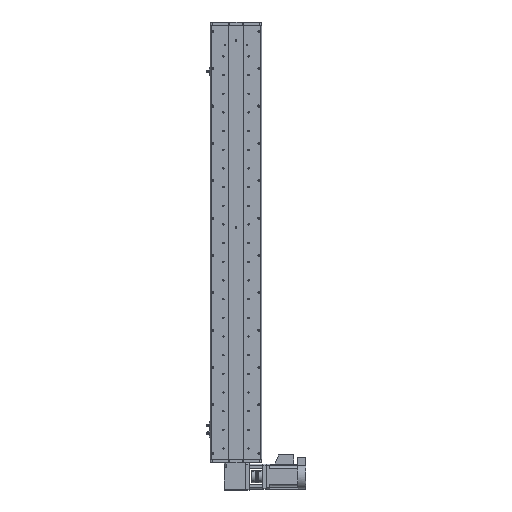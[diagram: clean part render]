
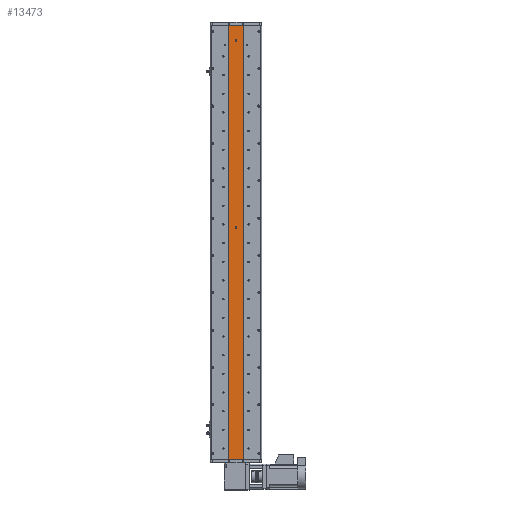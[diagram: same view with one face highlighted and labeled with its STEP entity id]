
A CAD part, front view. The second image highlights one B-rep face of the part: STEP entity #13473.
In plain terms, the highlighted planar face has unit normal (0, -1, 0).
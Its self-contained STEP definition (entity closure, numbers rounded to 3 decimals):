
#1919 = ORIENTED_EDGE ( 'NONE', *, *, #10869, .F. ) ;
#2234 = ORIENTED_EDGE ( 'NONE', *, *, #42616, .F. ) ;
#3768 = ORIENTED_EDGE ( 'NONE', *, *, #49944, .T. ) ;
#5292 = DIRECTION ( 'NONE',  ( 0., -1., 0. ) ) ;
#5307 = ORIENTED_EDGE ( 'NONE', *, *, #33931, .F. ) ;
#5576 = DIRECTION ( 'NONE',  ( 0., 1., 0. ) ) ;
#5873 = VERTEX_POINT ( 'NONE', #39789 ) ;
#6048 = DIRECTION ( 'NONE',  ( 0., -1., 0. ) ) ;
#7113 = CARTESIAN_POINT ( 'NONE',  ( 0., 1., 651.5 ) ) ;
#7134 = LINE ( 'NONE', #10293, #16329 ) ;
#7886 = CARTESIAN_POINT ( 'NONE',  ( -25., 1., 698.5 ) ) ;
#7991 = ORIENTED_EDGE ( 'NONE', *, *, #29442, .F. ) ;
#8174 = VERTEX_POINT ( 'NONE', #7113 ) ;
#10293 = CARTESIAN_POINT ( 'NONE',  ( -25., 1., 698.5 ) ) ;
#10869 = EDGE_CURVE ( 'NONE', #38807, #44735, #23951, .T. ) ;
#12101 = ORIENTED_EDGE ( 'NONE', *, *, #50450, .T. ) ;
#12177 = CIRCLE ( 'NONE', #17855, 3. ) ;
#12446 = CARTESIAN_POINT ( 'NONE',  ( 0., 1., 51.5 ) ) ;
#13453 = CARTESIAN_POINT ( 'NONE',  ( 25., 1., -698.5 ) ) ;
#13473 = ADVANCED_FACE ( 'NONE', ( #49269, #29832, #41411 ), #25061, .F. ) ;
#14795 = EDGE_LOOP ( 'NONE', ( #29551, #2234 ) ) ;
#15099 = DIRECTION ( 'NONE',  ( 0., -1., 0. ) ) ;
#16329 = VECTOR ( 'NONE', #29780, 1000. ) ;
#17599 = CARTESIAN_POINT ( 'NONE',  ( 0., 1., 645.5 ) ) ;
#17855 = AXIS2_PLACEMENT_3D ( 'NONE', #28695, #5292, #32587 ) ;
#18001 = CIRCLE ( 'NONE', #46540, 3. ) ;
#19627 = VERTEX_POINT ( 'NONE', #40122 ) ;
#20069 = ORIENTED_EDGE ( 'NONE', *, *, #20346, .F. ) ;
#20346 = EDGE_CURVE ( 'NONE', #8174, #49562, #12177, .T. ) ;
#21486 = VECTOR ( 'NONE', #29255, 1000. ) ;
#22104 = CARTESIAN_POINT ( 'NONE',  ( 0., 1., 48.5 ) ) ;
#22543 = CARTESIAN_POINT ( 'NONE',  ( -25., 1., -698.5 ) ) ;
#23951 = LINE ( 'NONE', #40030, #43480 ) ;
#24177 = VERTEX_POINT ( 'NONE', #22543 ) ;
#25061 = PLANE ( 'NONE',  #49772 ) ;
#25220 = LINE ( 'NONE', #44930, #21486 ) ;
#25859 = EDGE_LOOP ( 'NONE', ( #12101, #7991, #1919, #3768 ) ) ;
#26082 = DIRECTION ( 'NONE',  ( 0., 0., -1. ) ) ;
#27219 = VECTOR ( 'NONE', #48519, 1000. ) ;
#28695 = CARTESIAN_POINT ( 'NONE',  ( 0., 1., 648.5 ) ) ;
#28974 = CARTESIAN_POINT ( 'NONE',  ( 25., 1., 698.5 ) ) ;
#29150 = AXIS2_PLACEMENT_3D ( 'NONE', #22104, #49334, #26082 ) ;
#29255 = DIRECTION ( 'NONE',  ( 0., 0., -1. ) ) ;
#29442 = EDGE_CURVE ( 'NONE', #44735, #5873, #25220, .T. ) ;
#29457 = CARTESIAN_POINT ( 'NONE',  ( 0., 1., 648.5 ) ) ;
#29551 = ORIENTED_EDGE ( 'NONE', *, *, #29593, .F. ) ;
#29593 = EDGE_CURVE ( 'NONE', #19627, #47078, #36185, .T. ) ;
#29780 = DIRECTION ( 'NONE',  ( 0., 0., -1. ) ) ;
#29832 = FACE_BOUND ( 'NONE', #30100, .T. ) ;
#30100 = EDGE_LOOP ( 'NONE', ( #5307, #20069 ) ) ;
#32162 = DIRECTION ( 'NONE',  ( 1., 0., 0. ) ) ;
#32587 = DIRECTION ( 'NONE',  ( 0., 0., -1. ) ) ;
#32890 = DIRECTION ( 'NONE',  ( 0., 0., 1. ) ) ;
#33370 = DIRECTION ( 'NONE',  ( 0., 0., -1. ) ) ;
#33931 = EDGE_CURVE ( 'NONE', #49562, #8174, #18001, .T. ) ;
#36185 = CIRCLE ( 'NONE', #38580, 3. ) ;
#37662 = LINE ( 'NONE', #13453, #27219 ) ;
#38487 = CARTESIAN_POINT ( 'NONE',  ( 0., 1., 48.5 ) ) ;
#38580 = AXIS2_PLACEMENT_3D ( 'NONE', #38487, #15099, #42341 ) ;
#38807 = VERTEX_POINT ( 'NONE', #7886 ) ;
#39789 = CARTESIAN_POINT ( 'NONE',  ( 25., 1., -698.5 ) ) ;
#40030 = CARTESIAN_POINT ( 'NONE',  ( 25., 1., 698.5 ) ) ;
#40122 = CARTESIAN_POINT ( 'NONE',  ( 0., 1., 45.5 ) ) ;
#41411 = FACE_OUTER_BOUND ( 'NONE', #25859, .T. ) ;
#42040 = CARTESIAN_POINT ( 'NONE',  ( 25., 1., 698.5 ) ) ;
#42341 = DIRECTION ( 'NONE',  ( 0., 0., -1. ) ) ;
#42616 = EDGE_CURVE ( 'NONE', #47078, #19627, #50376, .T. ) ;
#43480 = VECTOR ( 'NONE', #32162, 1000. ) ;
#44735 = VERTEX_POINT ( 'NONE', #42040 ) ;
#44930 = CARTESIAN_POINT ( 'NONE',  ( 25., 1., 698.5 ) ) ;
#46540 = AXIS2_PLACEMENT_3D ( 'NONE', #29457, #6048, #33370 ) ;
#47078 = VERTEX_POINT ( 'NONE', #12446 ) ;
#48519 = DIRECTION ( 'NONE',  ( 1., 0., 0. ) ) ;
#49269 = FACE_BOUND ( 'NONE', #14795, .T. ) ;
#49334 = DIRECTION ( 'NONE',  ( 0., -1., 0. ) ) ;
#49562 = VERTEX_POINT ( 'NONE', #17599 ) ;
#49772 = AXIS2_PLACEMENT_3D ( 'NONE', #28974, #5576, #32890 ) ;
#49944 = EDGE_CURVE ( 'NONE', #38807, #24177, #7134, .T. ) ;
#50376 = CIRCLE ( 'NONE', #29150, 3. ) ;
#50450 = EDGE_CURVE ( 'NONE', #24177, #5873, #37662, .T. ) ;
